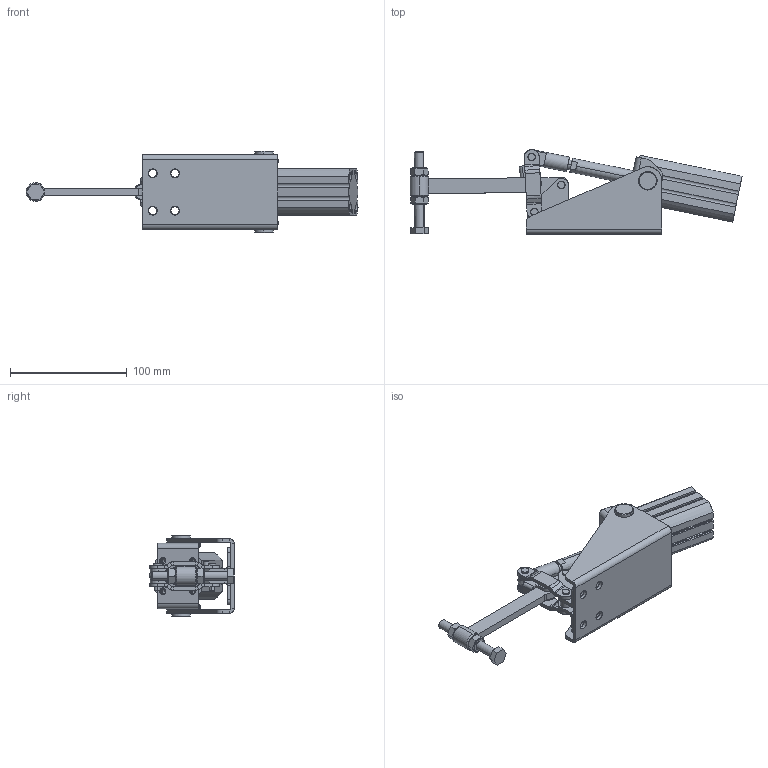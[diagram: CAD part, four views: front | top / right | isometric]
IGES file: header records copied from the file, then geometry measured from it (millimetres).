
Start section: SolidWorks IGES file using analytic representation for surfaces
Global section: file name: C:\Projetos\Grampos\KF-017 P\KF-017 DS P\KF-017 DS P.IGS; native system: SolidWorks 2013; preprocessor: SolidWorks 2013; author: Ricardo; date: 140828.142810; units: millimetre
Bounding box: 284.13 x 72.48 x 70 mm (x, y, z)
Surface area: 108185.3 mm2 (no closed solid volume)
Topology: 0 solids, 0 shells, 654 faces, 10256 edges, 10242 vertices
Faces by surface type: revolution 377, bspline 277
